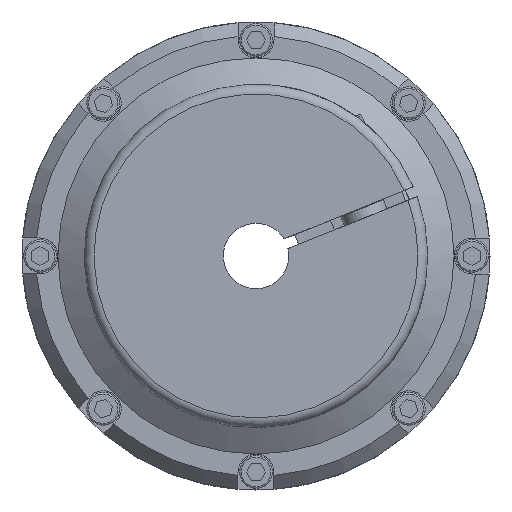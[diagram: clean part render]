
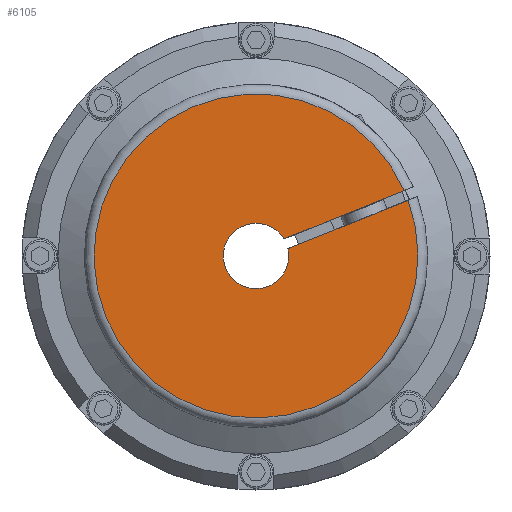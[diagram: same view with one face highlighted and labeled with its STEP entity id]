
A CAD part, left-side view. The second image highlights one B-rep face of the part: STEP entity #6105.
In plain terms, the highlighted planar face has unit normal (-1, 0, 0).
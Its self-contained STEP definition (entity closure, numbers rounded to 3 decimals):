
#296=PLANE('',#6567);
#650=LINE('',#12770,#1012);
#651=LINE('',#12774,#1013);
#1012=VECTOR('',#7771,1000.);
#1013=VECTOR('',#7774,1000.);
#1279=CIRCLE('',#6568,49.5);
#1280=CIRCLE('',#6569,10.);
#2871=ORIENTED_EDGE('',*,*,#3895,.T.);
#2872=ORIENTED_EDGE('',*,*,#3896,.T.);
#2873=ORIENTED_EDGE('',*,*,#3897,.F.);
#2874=ORIENTED_EDGE('',*,*,#3898,.T.);
#3895=EDGE_CURVE('',#4529,#4530,#1279,.T.);
#3896=EDGE_CURVE('',#4530,#4531,#650,.T.);
#3897=EDGE_CURVE('',#4532,#4531,#1280,.T.);
#3898=EDGE_CURVE('',#4532,#4529,#651,.T.);
#4529=VERTEX_POINT('',#12768);
#4530=VERTEX_POINT('',#12769);
#4531=VERTEX_POINT('',#12771);
#4532=VERTEX_POINT('',#12773);
#5263=EDGE_LOOP('',(#2871,#2872,#2873,#2874));
#5712=FACE_BOUND('',#5263,.T.);
#6105=ADVANCED_FACE('',(#5712),#296,.T.);
#6567=AXIS2_PLACEMENT_3D('',#12766,#7767,#7768);
#6568=AXIS2_PLACEMENT_3D('',#12767,#7769,#7770);
#6569=AXIS2_PLACEMENT_3D('',#12772,#7772,#7773);
#7767=DIRECTION('',(-1.,0.,0.));
#7768=DIRECTION('',(0.,0.,1.));
#7769=DIRECTION('',(-1.,0.,0.));
#7770=DIRECTION('',(0.,0.,1.));
#7771=DIRECTION('',(0.,0.927,-0.375));
#7772=DIRECTION('',(-1.,0.,0.));
#7773=DIRECTION('',(0.,0.,1.));
#7774=DIRECTION('',(0.,-0.927,0.375));
#12766=CARTESIAN_POINT('',(0.,0.,49.5));
#12767=CARTESIAN_POINT('',(0.,0.,0.));
#12768=CARTESIAN_POINT('',(0.,-45.265,20.033));
#12769=CARTESIAN_POINT('',(0.,-46.477,17.033));
#12770=CARTESIAN_POINT('',(0.,-55.085,20.511));
#12771=CARTESIAN_POINT('',(0.,-9.756,2.197));
#12772=CARTESIAN_POINT('',(0.,0.,0.));
#12773=CARTESIAN_POINT('',(0.,-8.544,5.197));
#12774=CARTESIAN_POINT('',(0.,-3.107,3.));
